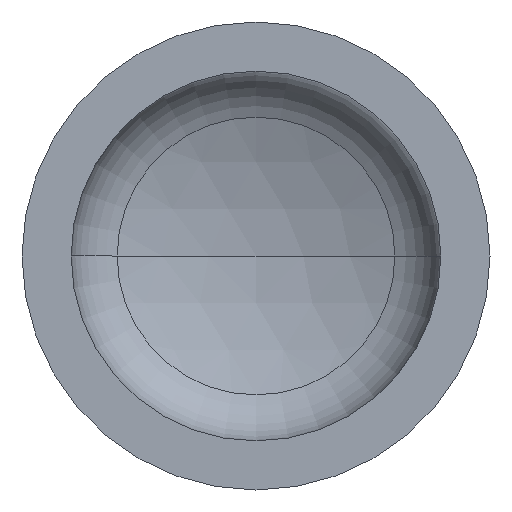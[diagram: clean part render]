
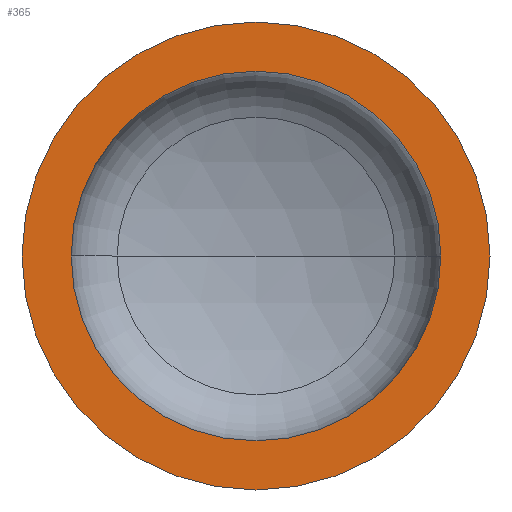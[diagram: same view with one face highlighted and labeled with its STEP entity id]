
A CAD part, front view. The second image highlights one B-rep face of the part: STEP entity #365.
In plain terms, the highlighted planar face has unit normal (0, -1, 0).
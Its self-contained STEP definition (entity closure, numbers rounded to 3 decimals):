
#1 = VERTEX_POINT ( 'NONE', #260 ) ;
#4 = CIRCLE ( 'NONE', #102, 316. ) ;
#6 = ORIENTED_EDGE ( 'NONE', *, *, #132, .F. ) ;
#12 = EDGE_LOOP ( 'NONE', ( #74, #55 ) ) ;
#22 = AXIS2_PLACEMENT_3D ( 'NONE', #383, #247, #404 ) ;
#38 = ORIENTED_EDGE ( 'NONE', *, *, #403, .F. ) ;
#40 = EDGE_LOOP ( 'NONE', ( #6, #38 ) ) ;
#55 = ORIENTED_EDGE ( 'NONE', *, *, #131, .T. ) ;
#60 = FACE_BOUND ( 'NONE', #40, .T. ) ;
#74 = ORIENTED_EDGE ( 'NONE', *, *, #137, .T. ) ;
#80 = VERTEX_POINT ( 'NONE', #358 ) ;
#86 = CARTESIAN_POINT ( 'NONE',  ( -400., 0., 0. ) ) ;
#100 = AXIS2_PLACEMENT_3D ( 'NONE', #265, #237, #364 ) ;
#102 = AXIS2_PLACEMENT_3D ( 'NONE', #338, #337, #348 ) ;
#118 = AXIS2_PLACEMENT_3D ( 'NONE', #318, #194, #209 ) ;
#131 = EDGE_CURVE ( 'NONE', #80, #141, #162, .T. ) ;
#132 = EDGE_CURVE ( 'NONE', #297, #1, #4, .T. ) ;
#137 = EDGE_CURVE ( 'NONE', #141, #80, #401, .T. ) ;
#141 = VERTEX_POINT ( 'NONE', #206 ) ;
#160 = DIRECTION ( 'NONE',  ( 0., 1., 0. ) ) ;
#162 = CIRCLE ( 'NONE', #118, 400. ) ;
#194 = DIRECTION ( 'NONE',  ( 0., -1., 0. ) ) ;
#206 = CARTESIAN_POINT ( 'NONE',  ( 400., 0., 0. ) ) ;
#209 = DIRECTION ( 'NONE',  ( 1., 0., 0. ) ) ;
#214 = PLANE ( 'NONE',  #376 ) ;
#237 = DIRECTION ( 'NONE',  ( 0., -1., 0. ) ) ;
#247 = DIRECTION ( 'NONE',  ( 0., -1., 0. ) ) ;
#260 = CARTESIAN_POINT ( 'NONE',  ( -316., 0., 0. ) ) ;
#264 = CARTESIAN_POINT ( 'NONE',  ( 316., 0., 0. ) ) ;
#265 = CARTESIAN_POINT ( 'NONE',  ( 0., 0., 0. ) ) ;
#297 = VERTEX_POINT ( 'NONE', #264 ) ;
#318 = CARTESIAN_POINT ( 'NONE',  ( 0., 0., 0. ) ) ;
#337 = DIRECTION ( 'NONE',  ( 0., -1., 0. ) ) ;
#338 = CARTESIAN_POINT ( 'NONE',  ( 0., 0., 0. ) ) ;
#348 = DIRECTION ( 'NONE',  ( 1., 0., 0. ) ) ;
#357 = CIRCLE ( 'NONE', #22, 316. ) ;
#358 = CARTESIAN_POINT ( 'NONE',  ( -400., 0., 0. ) ) ;
#364 = DIRECTION ( 'NONE',  ( 1., 0., 0. ) ) ;
#365 = ADVANCED_FACE ( 'NONE', ( #60, #367 ), #214, .F. ) ;
#367 = FACE_OUTER_BOUND ( 'NONE', #12, .T. ) ;
#376 = AXIS2_PLACEMENT_3D ( 'NONE', #86, #160, #389 ) ;
#383 = CARTESIAN_POINT ( 'NONE',  ( 0., 0., 0. ) ) ;
#389 = DIRECTION ( 'NONE',  ( -1., 0., 0. ) ) ;
#401 = CIRCLE ( 'NONE', #100, 400. ) ;
#403 = EDGE_CURVE ( 'NONE', #1, #297, #357, .T. ) ;
#404 = DIRECTION ( 'NONE',  ( 1., 0., 0. ) ) ;
